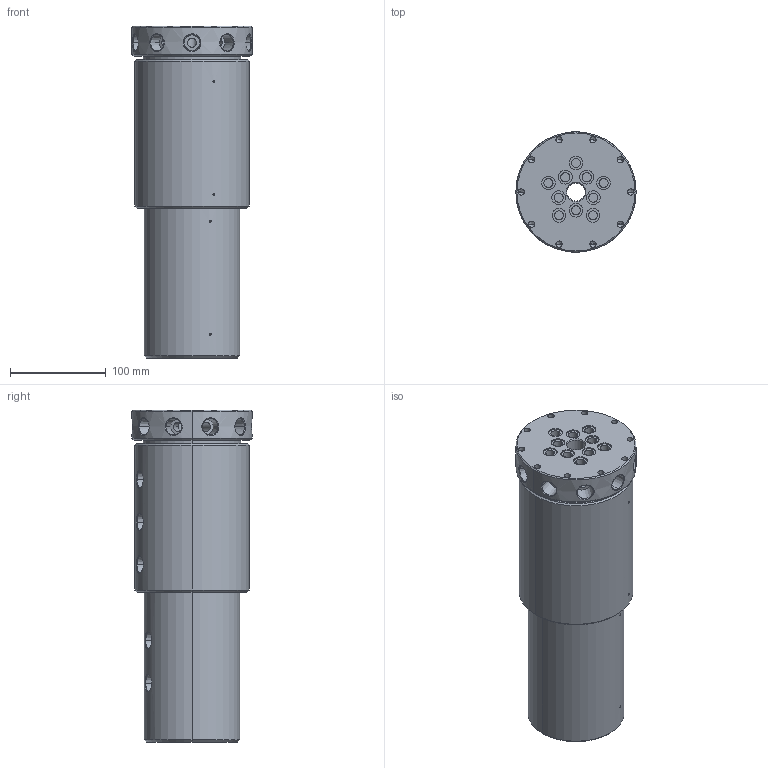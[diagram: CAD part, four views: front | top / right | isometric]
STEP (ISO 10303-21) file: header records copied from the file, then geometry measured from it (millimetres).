
FILE_DESCRIPTION (( 'STEP AP214' ), '1' );
FILE_NAME ('GP(M)-301-10.STEP', '2013-02-05T22:32:35', ( '' ), ( '' ), 'SwSTEP 2.0', 'SolidWorks 2011', '' );
FILE_SCHEMA (( 'AUTOMOTIVE_DESIGN' ));
Length unit declared in the file: inch
Products named in the file (1): GP(M)-301-10
Bounding box: 125.4 x 125.4 x 346.02 mm (x, y, z)
Volume: 3120884.8 mm3; surface area: 208372.1 mm2
Topology: 1 solids, 1 shells, 385 faces, 954 edges, 577 vertices
Faces by surface type: cylinder 161, cone 122, plane 60, bspline 40, torus 2
Entity records: 16892 total; most frequent: CARTESIAN_POINT 7237, ORIENTED_EDGE 1776, DIRECTION 1716, EDGE_CURVE 888, AXIS2_PLACEMENT_3D 704, VERTEX_POINT 577, EDGE_LOOP 479, FACE_OUTER_BOUND 385
